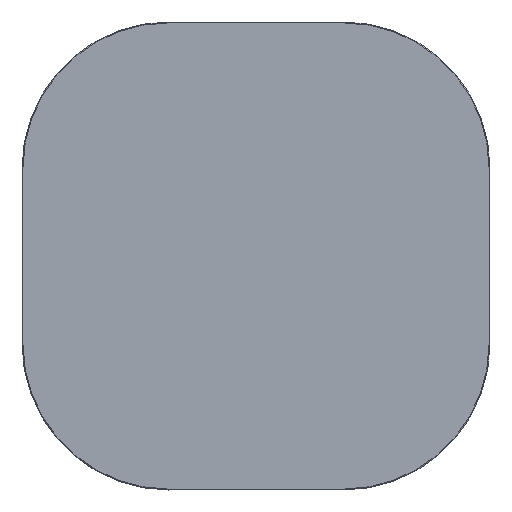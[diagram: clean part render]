
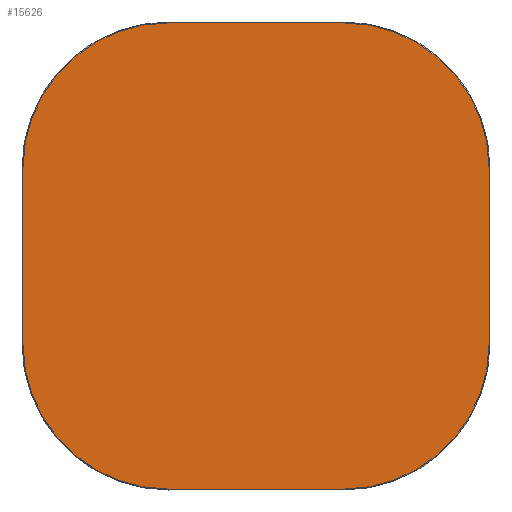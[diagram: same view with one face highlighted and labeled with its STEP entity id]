
A CAD part, top view. The second image highlights one B-rep face of the part: STEP entity #15626.
In plain terms, the highlighted planar face has unit normal (0, 0, 1).
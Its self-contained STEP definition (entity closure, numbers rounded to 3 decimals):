
#15551=CARTESIAN_POINT('',(0.,0.,20.));
#15552=DIRECTION('',(1.,0.,0.));
#15553=DIRECTION('',(0.,0.,1.));
#15554=AXIS2_PLACEMENT_3D('',#15551,#15553,#15552);
#15555=PLANE('',#15554);
#15556=CARTESIAN_POINT('',(-150.,-398.5,20.));
#15557=VERTEX_POINT('',#15556);
#15558=CARTESIAN_POINT('',(150.,-398.5,20.));
#15559=VERTEX_POINT('',#15558);
#15560=CARTESIAN_POINT('',(-150.,-398.5,20.));
#15561=DIRECTION('',(1.,0.,0.));
#15562=VECTOR('',#15561,300.);
#15563=LINE('',#15560,#15562);
#15564=EDGE_CURVE('',#15557,#15559,#15563,.T.);
#15565=ORIENTED_EDGE('E105',*,*,#15564,.T.);
#15566=CARTESIAN_POINT('',(398.5,-150.,20.));
#15567=VERTEX_POINT('',#15566);
#15568=CARTESIAN_POINT('',(150.,-150.,20.));
#15569=DIRECTION('',(0.,-1.,0.));
#15570=DIRECTION('',(0.,0.,1.));
#15571=AXIS2_PLACEMENT_3D('',#15568,#15570,#15569);
#15572=CIRCLE('',#15571,248.5);
#15573=EDGE_CURVE('',#15559,#15567,#15572,.T.);
#15574=ORIENTED_EDGE('E107',*,*,#15573,.T.);
#15575=CARTESIAN_POINT('',(398.5,150.,20.));
#15576=VERTEX_POINT('',#15575);
#15577=CARTESIAN_POINT('',(398.5,-150.,20.));
#15578=DIRECTION('',(0.,1.,0.));
#15579=VECTOR('',#15578,300.);
#15580=LINE('',#15577,#15579);
#15581=EDGE_CURVE('',#15567,#15576,#15580,.T.);
#15582=ORIENTED_EDGE('E109',*,*,#15581,.T.);
#15583=CARTESIAN_POINT('',(150.,398.5,20.));
#15584=VERTEX_POINT('',#15583);
#15585=CARTESIAN_POINT('',(150.,150.,20.));
#15586=DIRECTION('',(1.,0.,0.));
#15587=DIRECTION('',(0.,0.,1.));
#15588=AXIS2_PLACEMENT_3D('',#15585,#15587,#15586);
#15589=CIRCLE('',#15588,248.5);
#15590=EDGE_CURVE('',#15576,#15584,#15589,.T.);
#15591=ORIENTED_EDGE('E111',*,*,#15590,.T.);
#15592=CARTESIAN_POINT('',(-150.,398.5,20.));
#15593=VERTEX_POINT('',#15592);
#15594=CARTESIAN_POINT('',(150.,398.5,20.));
#15595=DIRECTION('',(-1.,0.,0.));
#15596=VECTOR('',#15595,300.);
#15597=LINE('',#15594,#15596);
#15598=EDGE_CURVE('',#15584,#15593,#15597,.T.);
#15599=ORIENTED_EDGE('E113',*,*,#15598,.T.);
#15600=CARTESIAN_POINT('',(-398.5,150.,20.));
#15601=VERTEX_POINT('',#15600);
#15602=CARTESIAN_POINT('',(-150.,150.,20.));
#15603=DIRECTION('',(0.,1.,0.));
#15604=DIRECTION('',(0.,0.,1.));
#15605=AXIS2_PLACEMENT_3D('',#15602,#15604,#15603);
#15606=CIRCLE('',#15605,248.5);
#15607=EDGE_CURVE('',#15593,#15601,#15606,.T.);
#15608=ORIENTED_EDGE('E115',*,*,#15607,.T.);
#15609=CARTESIAN_POINT('',(-398.5,-150.,20.));
#15610=VERTEX_POINT('',#15609);
#15611=CARTESIAN_POINT('',(-398.5,150.,20.));
#15612=DIRECTION('',(0.,-1.,0.));
#15613=VECTOR('',#15612,300.);
#15614=LINE('',#15611,#15613);
#15615=EDGE_CURVE('',#15601,#15610,#15614,.T.);
#15616=ORIENTED_EDGE('E117',*,*,#15615,.T.);
#15617=CARTESIAN_POINT('',(-150.,-150.,20.));
#15618=DIRECTION('',(-1.,0.,0.));
#15619=DIRECTION('',(-0.,0.,1.));
#15620=AXIS2_PLACEMENT_3D('',#15617,#15619,#15618);
#15621=CIRCLE('',#15620,248.5);
#15622=EDGE_CURVE('',#15610,#15557,#15621,.T.);
#15623=ORIENTED_EDGE('E119',*,*,#15622,.T.);
#15624=EDGE_LOOP('',(#15565,#15574,#15582,#15591,#15599,#15608,#15616,#15623));
#15625=FACE_OUTER_BOUND('',#15624,.T.);
#15626=ADVANCED_FACE('F2',(#15625),#15555,.T.);
